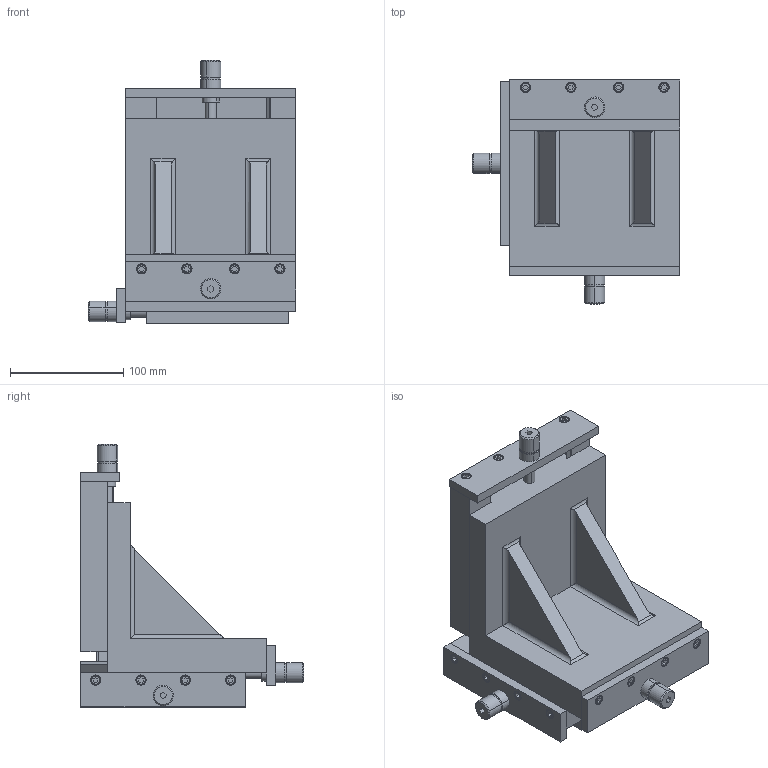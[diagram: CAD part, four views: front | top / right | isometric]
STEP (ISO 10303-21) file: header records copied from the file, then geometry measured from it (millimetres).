
FILE_DESCRIPTION(('STEP AP214'),'1');
FILE_NAME('tmp0.stp','2020-10-08T14:30:52',(' '),(' '),'Spatial InterOp 3D',' ',' ');
FILE_SCHEMA(('automotive_design'));
Length unit declared in the file: millimetre
Products named in the file (25): C150G_StepAP214|NONE#402.850.00;NONE; C150G_StepAP214|NONE#DIN_912;NONE; C150G_StepAP214|NONE#402.846.00;NONE; C150G_StepAP214|NONE#402.851.00;NONE; C150G_StepAP214|NONE#402.839.00;NONE; C150G_StepAP214|NONE#402.844.00;NONE; C150G_StepAP214|NONE#402.842.00;NONE; Bauteil_8264; C150G_StepAP214|NONE#403.341.00;NONE
Bounding box: 183.12 x 197.1 x 232.5 mm (x, y, z)
Volume: 2306242.1 mm3; surface area: 391980.4 mm2
Topology: 25 solids, 25 shells, 647 faces, 1511 edges, 950 vertices
Faces by surface type: plane 299, cylinder 248, cone 76, torus 24
Entity records: 25003 total; most frequent: CARTESIAN_POINT 4209, DIRECTION 3261, ORIENTED_EDGE 2942, EDGE_CURVE 1471, AXIS2_PLACEMENT_3D 1188, VERTEX_POINT 950, LINE 885, VECTOR 885
